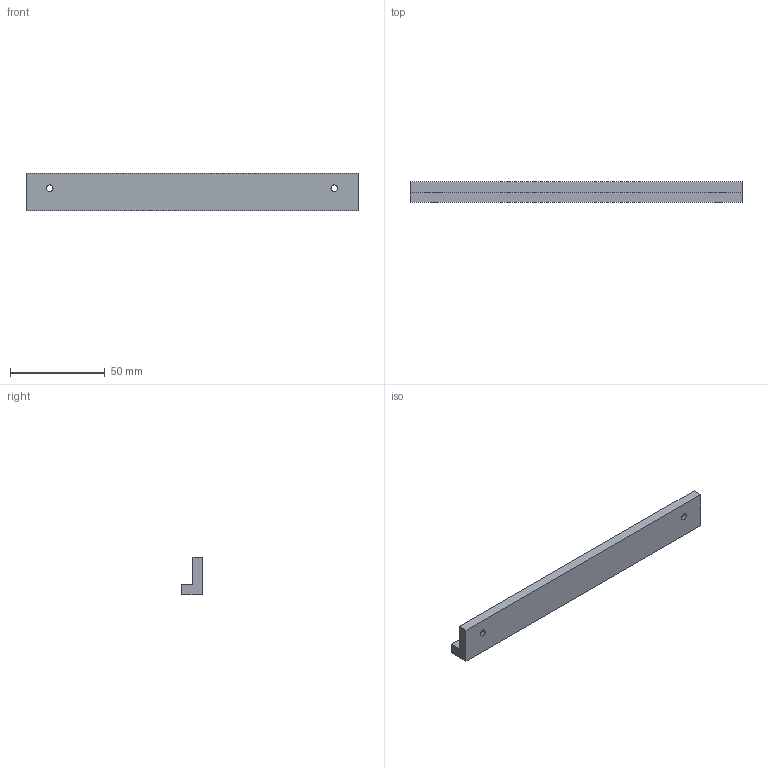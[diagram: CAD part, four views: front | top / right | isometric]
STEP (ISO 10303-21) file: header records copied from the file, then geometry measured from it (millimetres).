
FILE_DESCRIPTION(/* description */ (''),/* implementation_level */ '2;1');
FILE_NAME(/* name */ '/Users/davidflorian/Library/Mobile Documents/com~apple~CloudDocs/Vanderbilt/Papers/OTTO/Supplemental Material/3D-Printable-Components-STEP-Files/Power-Supply-Mounting-Slide.step',/* time_stamp */ '2020-06-30T23:21:59-05:00',/* author */ (''),/* organization */ (''),/* preprocessor_version */ 'ST-DEVELOPER v18.1',/* originating_system */ 'Autodesk Translation Framework v9.3.0.1241',/* authorisation */ '');
FILE_SCHEMA (('AUTOMOTIVE_DESIGN { 1 0 10303 214 3 1 1 }'));
Length unit declared in the file: millimetre
Products named in the file (1): Otto Rebuild 24V Power Supply Holder
Bounding box: 175 x 11 x 20 mm (x, y, z)
Volume: 22854.8 mm3; surface area: 11291.1 mm2
Topology: 1 solids, 1 shells, 14 faces, 30 edges, 20 vertices
Faces by surface type: plane 10, cylinder 4
Full cylindrical faces by diameter (mm): 3.5 x2, 9 x2
Entity records: 423 total; most frequent: DIRECTION 68, CARTESIAN_POINT 65, ORIENTED_EDGE 60, EDGE_CURVE 30, AXIS2_PLACEMENT_3D 23, LINE 22, VECTOR 22, EDGE_LOOP 20
